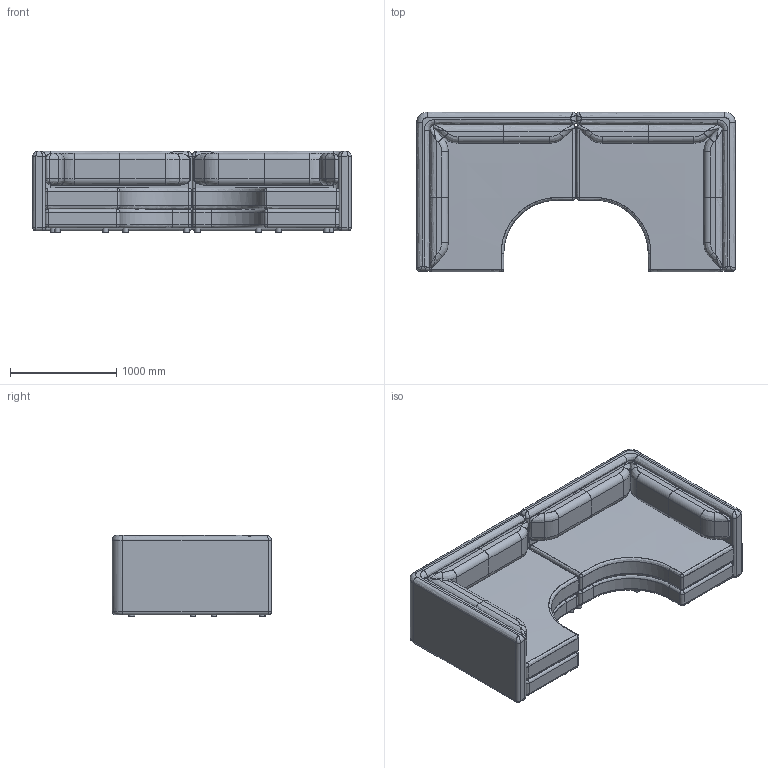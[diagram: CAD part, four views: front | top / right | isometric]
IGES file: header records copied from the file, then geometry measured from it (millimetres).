
Global section: file name: C:\Users\market02\Desktop\RYAN\VIRGULE\compo2\COMPO2.igs; native system: Rhinoceros ( Dec 14 2021 ); preprocessor: Trout Lake IGES 012 Dec 14 2021; date: 220919.080628; units: millimetre
Bounding box: 3000 x 1503.28 x 767.54 mm (x, y, z)
Surface area: 29725683.8 mm2 (no closed solid volume)
Topology: 0 solids, 0 shells, 400 faces, 2484 edges, 2448 vertices
Faces by surface type: bspline 400
